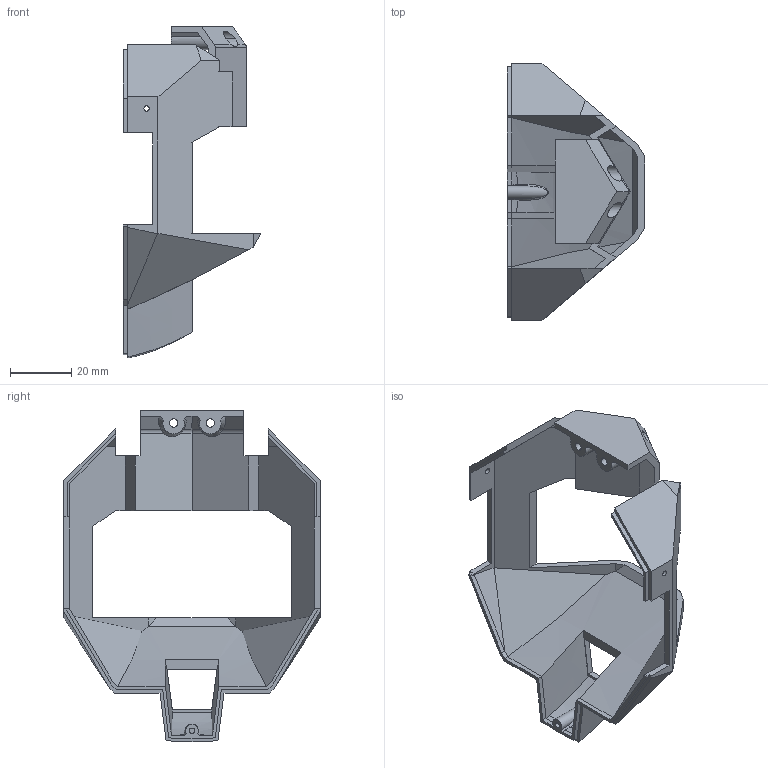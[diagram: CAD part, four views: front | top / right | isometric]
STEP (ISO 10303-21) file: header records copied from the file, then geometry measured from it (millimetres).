
FILE_DESCRIPTION((''),'2;1');
FILE_NAME('OP3_FRONT_HEAD_CASE_VER1','2017-07-24T',('kimdolyang'),(''),'PRO/ENGINEER BY PARAMETRIC TECHNOLOGY CORPORATION, 2013410','PRO/ENGINEER BY PARAMETRIC TECHNOLOGY CORPORATION, 2013410','');
FILE_SCHEMA(('CONFIG_CONTROL_DESIGN'));
Length unit declared in the file: millimetre
Products named in the file (1): OP3_FRONT_HEAD_CASE_VER1
Bounding box: 45.13 x 84 x 108.68 mm (x, y, z)
Volume: 20119.5 mm3; surface area: 22393.4 mm2
Topology: 1 solids, 1 shells, 160 faces, 449 edges, 290 vertices
Faces by surface type: plane 102, cylinder 25, bspline 23, extrusion 10
Entity records: 6080 total; most frequent: CARTESIAN_POINT 2153, ORIENTED_EDGE 898, DIRECTION 639, EDGE_CURVE 449, VECTOR 335, LINE 325, VERTEX_POINT 290, EDGE_LOOP 171
